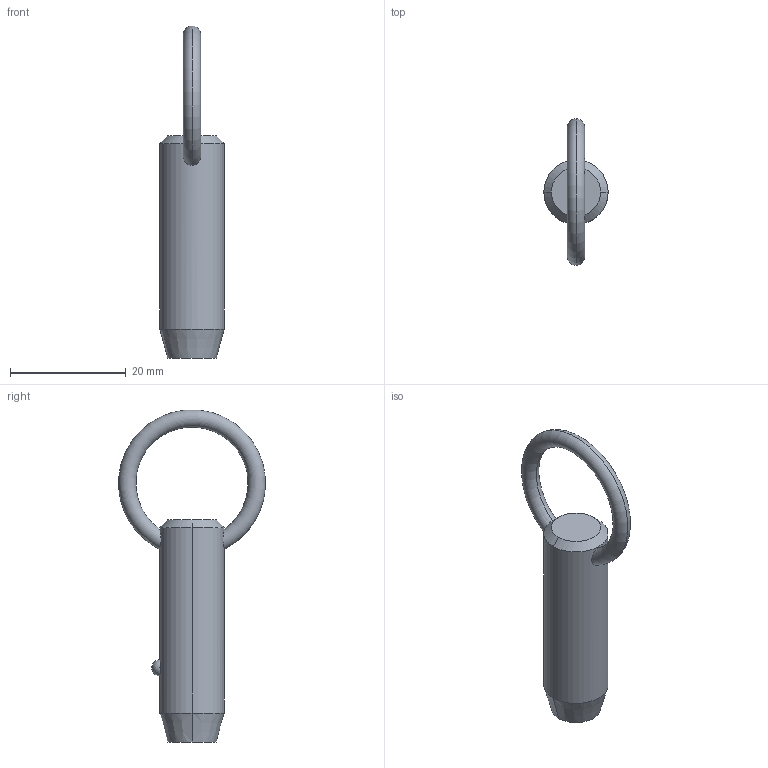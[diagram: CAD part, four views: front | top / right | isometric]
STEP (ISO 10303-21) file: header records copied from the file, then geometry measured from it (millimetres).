
FILE_DESCRIPTION (( 'STEP AP203' ), '1' );
FILE_NAME ('P1250.050-070.step', '2019-07-29T20:28:10', ( '' ), ( '' ), 'SwSTEP 2.0', 'SolidWorks 2017', '' );
FILE_SCHEMA (( 'CONFIG_CONTROL_DESIGN' ));
Length unit declared in the file: millimetre
Products named in the file (1): P1250.050-070
Bounding box: 11.1 x 25.32 x 57.35 mm (x, y, z)
Volume: 3998.6 mm3; surface area: 1991.7 mm2
Topology: 1 solids, 1 shells, 12 faces, 28 edges, 17 vertices
Faces by surface type: cone 4, torus 2, sphere 2, cylinder 2, plane 2
Entity records: 523 total; most frequent: CARTESIAN_POINT 190, DIRECTION 56, ORIENTED_EDGE 48, AXIS2_PLACEMENT_3D 25, EDGE_CURVE 24, EDGE_LOOP 15, VERTEX_POINT 15, CIRCLE 12
